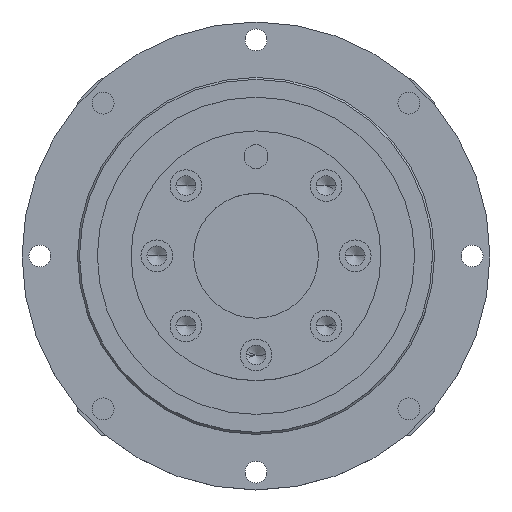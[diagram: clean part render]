
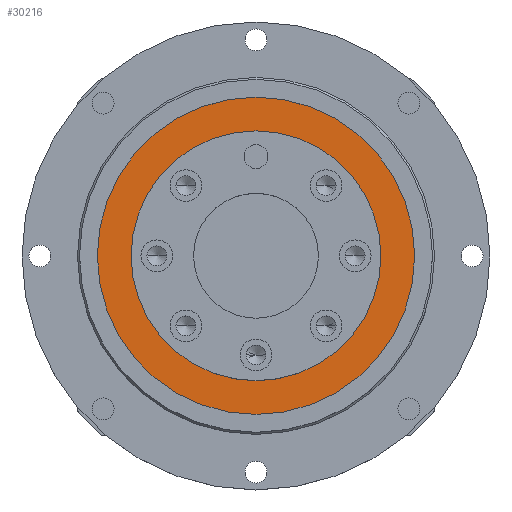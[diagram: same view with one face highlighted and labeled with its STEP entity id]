
A CAD part, top view. The second image highlights one B-rep face of the part: STEP entity #30216.
In plain terms, the highlighted planar face has unit normal (0, 0, 1).
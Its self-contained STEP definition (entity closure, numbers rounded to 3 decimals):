
#2447 = DIRECTION ( 'NONE',  ( -1., 0., 0. ) ) ;
#3393 = CARTESIAN_POINT ( 'NONE',  ( 0., 0., -1. ) ) ;
#3846 = CIRCLE ( 'NONE', #14480, 40. ) ;
#3946 = EDGE_LOOP ( 'NONE', ( #35976, #34524 ) ) ;
#4052 = DIRECTION ( 'NONE',  ( 0., 0., 1. ) ) ;
#5202 = FACE_OUTER_BOUND ( 'NONE', #11371, .T. ) ;
#5682 = EDGE_CURVE ( 'NONE', #46230, #32226, #39510, .T. ) ;
#6149 = DIRECTION ( 'NONE',  ( 0., 0., -1. ) ) ;
#7665 = EDGE_CURVE ( 'NONE', #32226, #46230, #10143, .T. ) ;
#7871 = EDGE_CURVE ( 'NONE', #18578, #37296, #3846, .T. ) ;
#8986 = CARTESIAN_POINT ( 'NONE',  ( 40., 0., -1. ) ) ;
#10143 = CIRCLE ( 'NONE', #43495, 31. ) ;
#11371 = EDGE_LOOP ( 'NONE', ( #16926, #12946 ) ) ;
#12946 = ORIENTED_EDGE ( 'NONE', *, *, #17669, .T. ) ;
#14480 = AXIS2_PLACEMENT_3D ( 'NONE', #3393, #4052, #39057 ) ;
#16926 = ORIENTED_EDGE ( 'NONE', *, *, #7871, .T. ) ;
#17669 = EDGE_CURVE ( 'NONE', #37296, #18578, #24648, .T. ) ;
#18578 = VERTEX_POINT ( 'NONE', #8986 ) ;
#18631 = AXIS2_PLACEMENT_3D ( 'NONE', #30062, #29962, #29803 ) ;
#23971 = CARTESIAN_POINT ( 'NONE',  ( 31., 0., -1. ) ) ;
#24648 = CIRCLE ( 'NONE', #37362, 40. ) ;
#28676 = DIRECTION ( 'NONE',  ( 1., 0., 0. ) ) ;
#28716 = DIRECTION ( 'NONE',  ( 0., 0., 1. ) ) ;
#28776 = CARTESIAN_POINT ( 'NONE',  ( 0., 0., -1. ) ) ;
#29803 = DIRECTION ( 'NONE',  ( -1., 0., 0. ) ) ;
#29962 = DIRECTION ( 'NONE',  ( 0., 0., 1. ) ) ;
#30062 = CARTESIAN_POINT ( 'NONE',  ( 0., 0., -1. ) ) ;
#30216 = ADVANCED_FACE ( 'NONE', ( #47664, #5202 ), #47786, .F. ) ;
#31865 = DIRECTION ( 'NONE',  ( -1., 0., 0. ) ) ;
#32226 = VERTEX_POINT ( 'NONE', #23971 ) ;
#33056 = CARTESIAN_POINT ( 'NONE',  ( -31., 0., -1. ) ) ;
#34524 = ORIENTED_EDGE ( 'NONE', *, *, #7665, .F. ) ;
#35976 = ORIENTED_EDGE ( 'NONE', *, *, #5682, .F. ) ;
#37045 = DIRECTION ( 'NONE',  ( 0., 0., 1. ) ) ;
#37296 = VERTEX_POINT ( 'NONE', #43195 ) ;
#37362 = AXIS2_PLACEMENT_3D ( 'NONE', #28776, #28716, #28676 ) ;
#39057 = DIRECTION ( 'NONE',  ( 1., 0., 0. ) ) ;
#39510 = CIRCLE ( 'NONE', #18631, 31. ) ;
#39802 = AXIS2_PLACEMENT_3D ( 'NONE', #44283, #6149, #2447 ) ;
#43195 = CARTESIAN_POINT ( 'NONE',  ( -40., 0., -1. ) ) ;
#43495 = AXIS2_PLACEMENT_3D ( 'NONE', #47513, #37045, #31865 ) ;
#44283 = CARTESIAN_POINT ( 'NONE',  ( 0., 40., -1. ) ) ;
#46230 = VERTEX_POINT ( 'NONE', #33056 ) ;
#47513 = CARTESIAN_POINT ( 'NONE',  ( 0., 0., -1. ) ) ;
#47664 = FACE_BOUND ( 'NONE', #3946, .T. ) ;
#47786 = PLANE ( 'NONE',  #39802 ) ;
